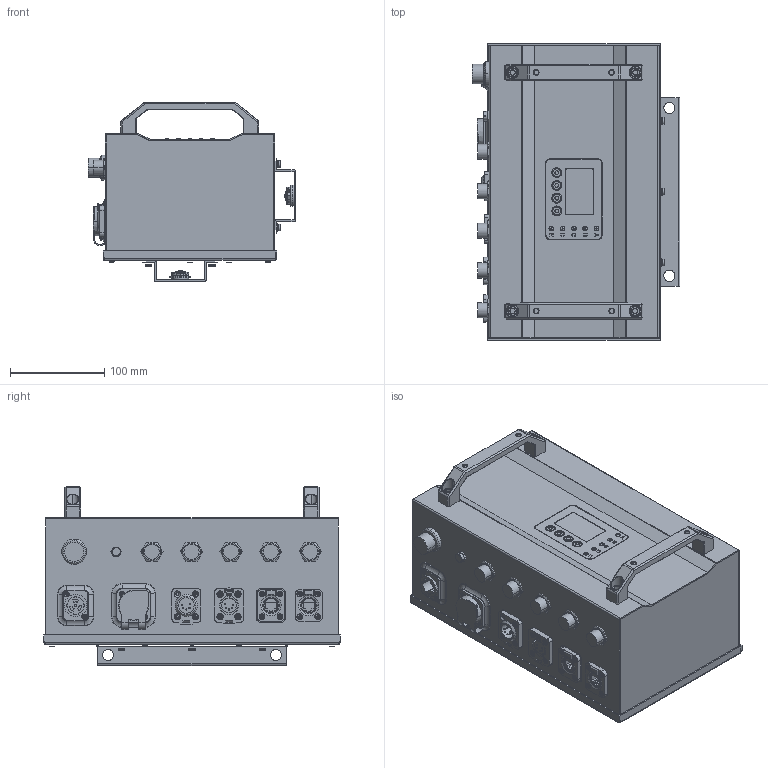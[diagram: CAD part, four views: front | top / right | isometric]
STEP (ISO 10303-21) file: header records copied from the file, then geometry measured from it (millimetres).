
FILE_DESCRIPTION((''),'2;1');
FILE_NAME('PSU_SW0001','2019-07-19T11:13:15',('fw'),(''),'CREO PARAMETRIC BY PTC INC, 2018260','CREO PARAMETRIC BY PTC INC, 2018260','');
FILE_SCHEMA(('AUTOMOTIVE_DESIGN { 1 0 10303 214 1 1 1 1 }'));
Products named in the file (1): PSU_SW0001
Bounding box: 220.5 x 314 x 190 mm (x, y, z)
Surface area: 384854.2 mm2 (no closed solid volume)
Topology: 0 solids, 174 shells, 1140 faces, 6258 edges, 5165 vertices
Faces by surface type: plane 458, cylinder 273, cone 174, torus 123, sphere 80, bspline 32
Entity records: 79488 total; most frequent: CARTESIAN_POINT 29369, ORIENTED_EDGE 8222, DIRECTION 8056, EDGE_CURVE 6258, VERTEX_POINT 5165, AXIS2_PLACEMENT_3D 3026, B_SPLINE_CURVE_WITH_KNOTS 2336, VECTOR 2004
